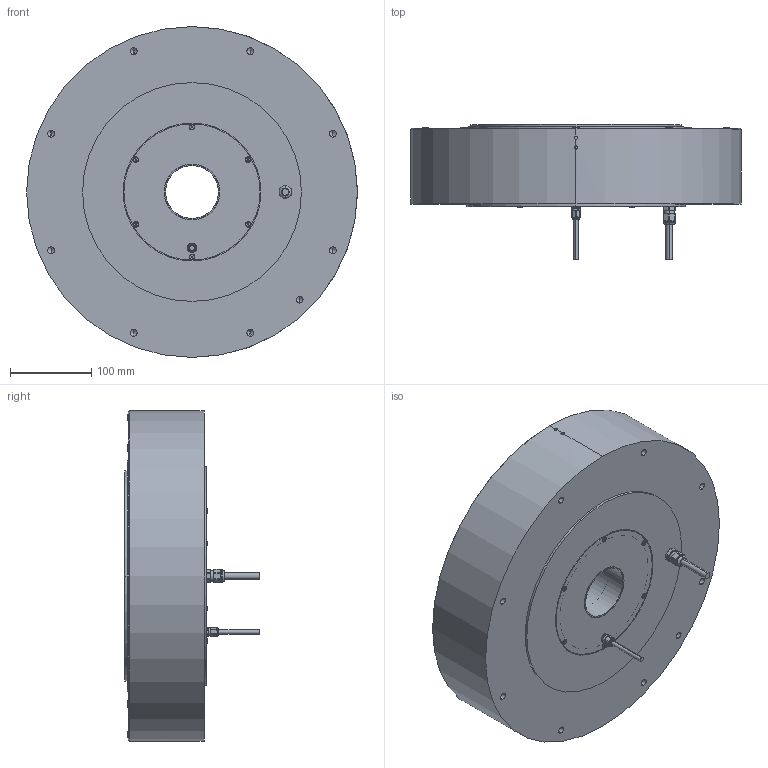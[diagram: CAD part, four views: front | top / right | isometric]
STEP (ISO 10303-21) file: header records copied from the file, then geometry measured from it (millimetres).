
FILE_DESCRIPTION (( 'STEP AP214' ), '1' );
FILE_NAME ('ND400-95-LS(INC).step', '2025-03-10T02:30:20', ( '' ), ( '' ), 'SwSTEP 2.0', 'SolidWorks 2024', '' );
FILE_SCHEMA (( 'AUTOMOTIVE_DESIGN' ));
Length unit declared in the file: millimetre
Products named in the file (1): ND400-95-LS(INC)
Bounding box: 408 x 166.3 x 408 mm (x, y, z)
Volume: 4448030.9 mm3; surface area: 821956.8 mm2
Topology: 34 solids, 34 shells, 1155 faces, 2888 edges, 1788 vertices
Faces by surface type: cylinder 616, plane 221, cone 218, torus 68, sphere 32
Entity records: 36750 total; most frequent: CARTESIAN_POINT 9035, DIRECTION 5915, ORIENTED_EDGE 5536, EDGE_CURVE 2768, AXIS2_PLACEMENT_3D 2425, VERTEX_POINT 1788, EDGE_LOOP 1342, CIRCLE 1269
